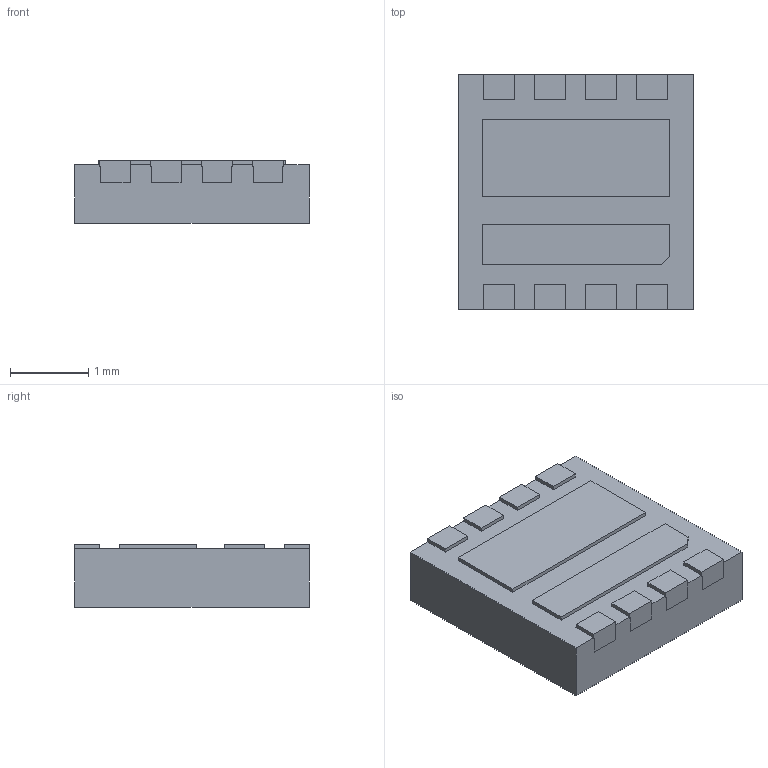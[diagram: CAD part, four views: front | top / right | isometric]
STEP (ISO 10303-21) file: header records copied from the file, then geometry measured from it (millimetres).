
FILE_DESCRIPTION (( 'STEP AP214' ), '1' );
FILE_NAME ('SIZ340DT-T1-GE3.STEP', '2023-07-11T13:40:27', ( '' ), ( '' ), 'SwSTEP 2.0', 'SolidWorks 2022', '' );
FILE_SCHEMA (( 'AUTOMOTIVE_DESIGN' ));
Length unit declared in the file: millimetre
Products named in the file (3): Vishay SIZ346DT-T1-GE3 2; Vishay SIZ346DT-T1-GE3_1; SIZ340DT-T1-GE3
Assembly tree (2 placements, depth 2):
  SIZ340DT-T1-GE3
    Vishay SIZ346DT-T1-GE3_1
    Vishay SIZ346DT-T1-GE3 2
Bounding box: 3 x 3 x 0.8 mm (x, y, z)
Volume: 7 mm3; surface area: 39.7 mm2
Topology: 11 solids, 11 shells, 174 faces, 450 edges, 300 vertices
Faces by surface type: plane 174
Entity records: 7299 total; most frequent: CARTESIAN_POINT 929, ORIENTED_EDGE 900, DIRECTION 808, VECTOR 450, EDGE_CURVE 450, LINE 450, VERTEX_POINT 300, UNCERTAINTY_MEASURE_WITH_UNIT 190
